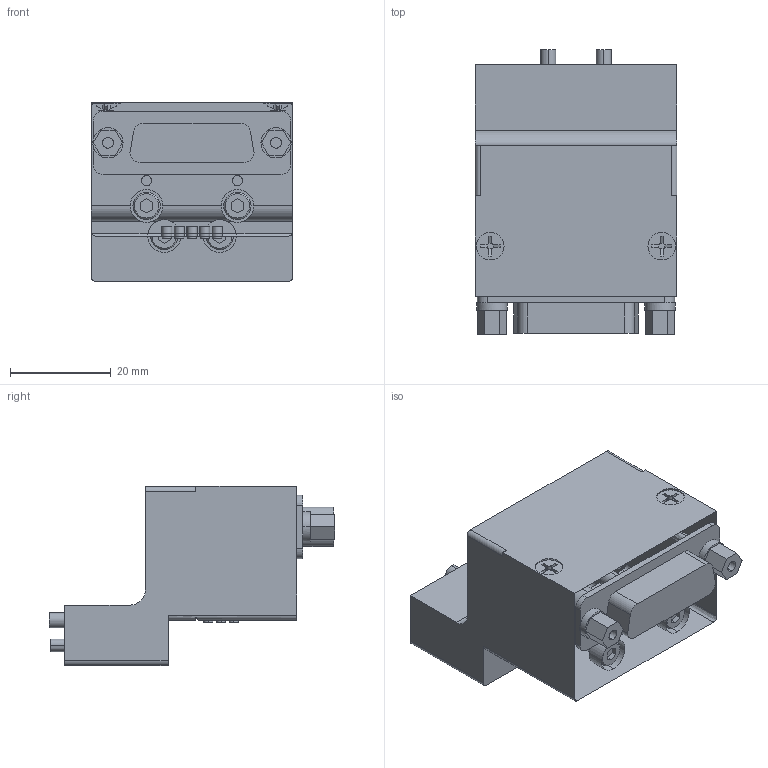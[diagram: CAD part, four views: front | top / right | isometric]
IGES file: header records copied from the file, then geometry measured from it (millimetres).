
Start section: 3D InterOp IGES (v. 2022 1.0.0), Spatial Corp. Copyright (c) 1999-2020.
Global section: file name: KHG-12RS-D315C_ver1.igs; native system: Spatial Corp.; preprocessor: 3D InterOp GENERIC/IGES 3.0; author: Noname; organization: Noname; date: 20260518.091524; units: millimetre
Bounding box: 40 x 56.5 x 35.5 mm (x, y, z)
Surface area: 12138 mm2 (no closed solid volume)
Topology: 0 solids, 0 shells, 439 faces, 1978 edges, 1978 vertices
Faces by surface type: extrusion 226, revolution 213
